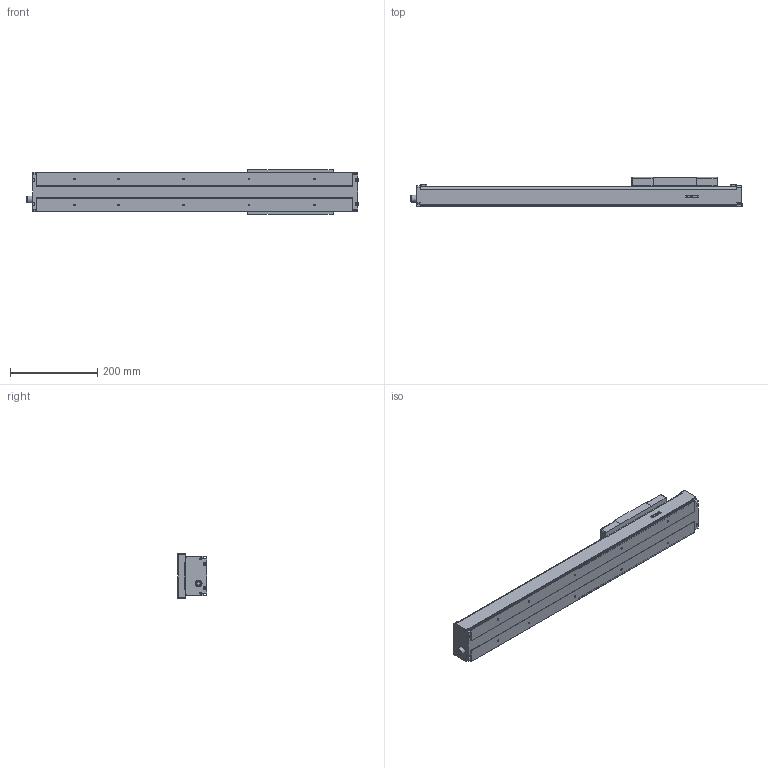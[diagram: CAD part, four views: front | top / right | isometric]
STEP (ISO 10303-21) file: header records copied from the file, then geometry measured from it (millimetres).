
FILE_DESCRIPTION(/* description */ (''),/* implementation_level */ '2;1');
FILE_NAME(/* name */ 'D:\混合母檔20191031\混和母檔\混和母檔\bin\Debug\Download\3D\KS90-10C-450AF0\KS90-10C-450AF0.stp',/* time_stamp */ '2019-11-04T14:42:20+08:00',/* author */ ('user'),/* organization */ (''),/* preprocessor_version */ 'ST-DEVELOPER v16.13',/* originating_system */ 'Autodesk Inventor 2018',/* authorisation */ '');
FILE_SCHEMA (('AUTOMOTIVE_DESIGN { 1 0 10303 214 3 1 1 }'));
Length unit declared in the file: millimetre
Products named in the file (3): KS90-10C-450AF0; KS90-F0; KS90-SL
Assembly tree (2 placements, depth 2):
  KS90-10C-450AF0
    KS90-F0
    KS90-SL
Bounding box: 761.6 x 68.5 x 102.4 mm (x, y, z)
Volume: 1269915.5 mm3; surface area: 492080 mm2
Topology: 3 solids, 13 shells, 1017 faces, 2790 edges, 1842 vertices
Faces by surface type: plane 563, cylinder 146, bspline 136, cone 120, torus 48, sphere 4
Full cylindrical faces by diameter (mm): 2.113 x2, 2.459 x8, 2.5 x4, 2.693 x8, 3 x12, 3.242 x6, 3.5 x8, 4 x7, 4.134 x10, 4.5 x8, 4.917 x4, 5.5 x12, 6 x3, 7 x4, 8 x2, 10.437 x1, 11 x1, 11.5 x1, 14 x1, 15.538 x1, 28 x1, 30 x1
Entity records: 37861 total; most frequent: CARTESIAN_POINT 14048, ORIENTED_EDGE 5014, DIRECTION 4448, EDGE_CURVE 2507, VERTEX_POINT 1729, LINE 1498, VECTOR 1498, AXIS2_PLACEMENT_3D 1475
